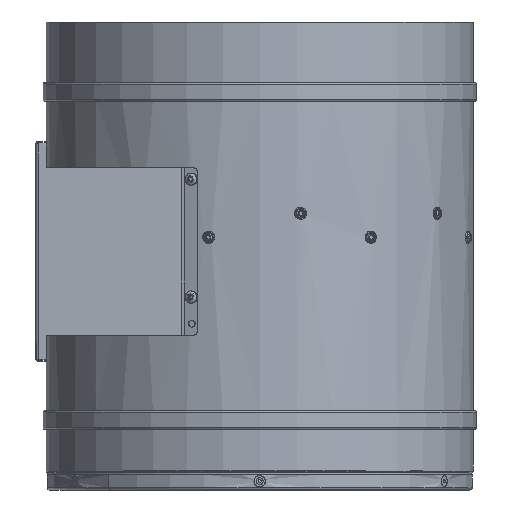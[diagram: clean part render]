
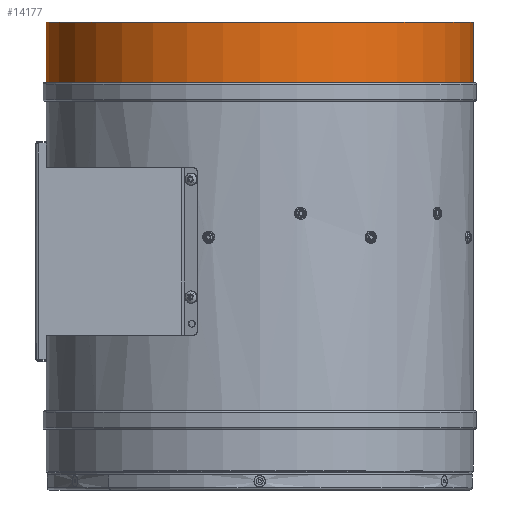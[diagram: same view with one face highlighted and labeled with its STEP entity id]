
A CAD part, left-side view. The second image highlights one B-rep face of the part: STEP entity #14177.
In plain terms, the highlighted cylindrical face has radius 140.35 mm (diameter 280.7 mm), a partial arc.
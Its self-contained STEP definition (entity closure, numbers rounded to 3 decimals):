
#1327 = CARTESIAN_POINT ( 'NONE',  ( 0., 0., 346.1 ) ) ;
#1328 = DIRECTION ( 'NONE',  ( 0., 0., -1. ) ) ;
#1329 = DIRECTION ( 'NONE',  ( 0., -1., 0. ) ) ;
#1482 = CARTESIAN_POINT ( 'NONE',  ( 0., 0., 115.145 ) ) ;
#1571 = DIRECTION ( 'NONE',  ( 0., 0., -1. ) ) ;
#1939 = DIRECTION ( 'NONE',  ( 0., -1., 0. ) ) ;
#5474 = CARTESIAN_POINT ( 'NONE',  ( 0., -140.35, 115.145 ) ) ;
#5728 = DIRECTION ( 'NONE',  ( 0., 0., -1. ) ) ;
#5863 = CARTESIAN_POINT ( 'NONE',  ( 0., 140.35, 115.145 ) ) ;
#6677 = DIRECTION ( 'NONE',  ( 0., 0., -1. ) ) ;
#9343 = CIRCLE ( 'NONE', #21942, 140.35 ) ;
#13185 = ORIENTED_EDGE ( 'NONE', *, *, #29135, .F. ) ;
#13391 = ORIENTED_EDGE ( 'NONE', *, *, #29798, .F. ) ;
#13418 = ORIENTED_EDGE ( 'NONE', *, *, #29238, .T. ) ;
#13660 = ORIENTED_EDGE ( 'NONE', *, *, #29141, .T. ) ;
#14177 = ADVANCED_FACE ( 'NONE', ( #19174 ), #19084, .T. ) ;
#14979 = CARTESIAN_POINT ( 'NONE',  ( 0., 140.35, 386.1 ) ) ;
#15064 = CARTESIAN_POINT ( 'NONE',  ( 0., -140.35, 386.1 ) ) ;
#15118 = CARTESIAN_POINT ( 'NONE',  ( 0., 140.35, 346.1 ) ) ;
#15199 = CARTESIAN_POINT ( 'NONE',  ( 0., -140.35, 346.1 ) ) ;
#16153 = DIRECTION ( 'NONE',  ( 0., -1., 0. ) ) ;
#16154 = DIRECTION ( 'NONE',  ( 0., 0., -1. ) ) ;
#16155 = CARTESIAN_POINT ( 'NONE',  ( 0., 0., 386.1 ) ) ;
#19084 = CYLINDRICAL_SURFACE ( 'NONE', #26442, 140.35 ) ;
#19174 = FACE_OUTER_BOUND ( 'NONE', #27662, .T. ) ;
#21441 = AXIS2_PLACEMENT_3D ( 'NONE', #16155, #16154, #16153 ) ;
#21942 = AXIS2_PLACEMENT_3D ( 'NONE', #1327, #1328, #1329 ) ;
#22327 = VECTOR ( 'NONE', #5728, 1000. ) ;
#22475 = CIRCLE ( 'NONE', #21441, 140.35 ) ;
#22522 = LINE ( 'NONE', #5863, #22527 ) ;
#22524 = LINE ( 'NONE', #5474, #22327 ) ;
#22527 = VECTOR ( 'NONE', #6677, 1000. ) ;
#22713 = VERTEX_POINT ( 'NONE', #15199 ) ;
#22945 = VERTEX_POINT ( 'NONE', #15118 ) ;
#22969 = VERTEX_POINT ( 'NONE', #15064 ) ;
#22971 = VERTEX_POINT ( 'NONE', #14979 ) ;
#26442 = AXIS2_PLACEMENT_3D ( 'NONE', #1482, #1571, #1939 ) ;
#27662 = EDGE_LOOP ( 'NONE', ( #13418, #13660, #13391, #13185 ) ) ;
#29135 = EDGE_CURVE ( 'NONE', #22969, #22713, #22524, .T. ) ;
#29141 = EDGE_CURVE ( 'NONE', #22971, #22945, #22522, .T. ) ;
#29238 = EDGE_CURVE ( 'NONE', #22969, #22971, #22475, .T. ) ;
#29798 = EDGE_CURVE ( 'NONE', #22713, #22945, #9343, .T. ) ;
